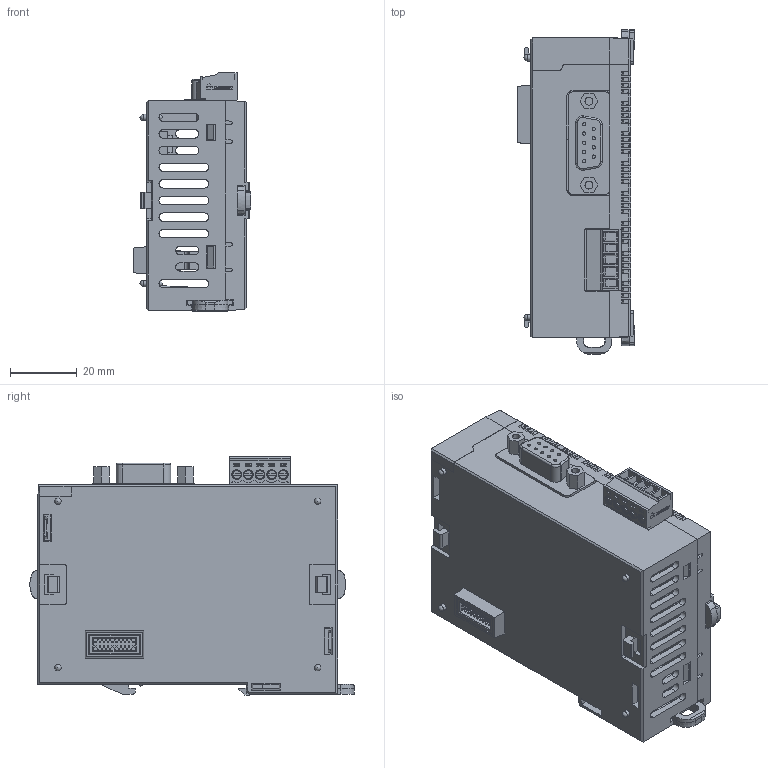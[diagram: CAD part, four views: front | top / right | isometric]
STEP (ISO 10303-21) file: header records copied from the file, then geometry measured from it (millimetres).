
FILE_DESCRIPTION (( 'STEP AP214' ), '1' );
FILE_NAME ('CM3-SP02ERS, SP02ERR, SP02ERSC, SP02ERRC_(目池磐 器窃).STEP', '2025-09-18T00:24:26', ( '' ), ( '' ), 'SwSTEP 2.0', 'SolidWorks 2024', '' );
FILE_SCHEMA (( 'AUTOMOTIVE_DESIGN' ));
Length unit declared in the file: millimetre
Products named in the file (1): CM3-SP02ERS, SP02ERR, SP02ERSC, SP02ERRC_(커넥터 포함)
Bounding box: 35.25 x 97.46 x 71.5 mm (x, y, z)
Volume: 42759.7 mm3; surface area: 51750.9 mm2
Topology: 1 solids, 11 shells, 4213 faces, 11837 edges, 7700 vertices
Faces by surface type: plane 3672, cylinder 361, cone 68, bspline 55, torus 45, sphere 12
Full cylindrical faces by diameter (mm): 1 x9, 1.5 x4, 1.8 x2, 2 x2, 2.2 x4, 2.3 x4, 2.6 x4, 2.87 x1, 2.95 x4
Entity records: 171287 total; most frequent: CARTESIAN_POINT 26606, ORIENTED_EDGE 23508, DIRECTION 20300, EDGE_CURVE 11754, VECTOR 10504, LINE 10504, VERTEX_POINT 7673, AXIS2_PLACEMENT_3D 4898
